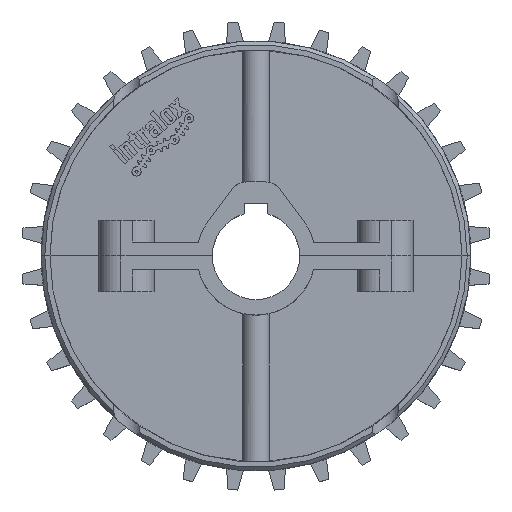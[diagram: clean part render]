
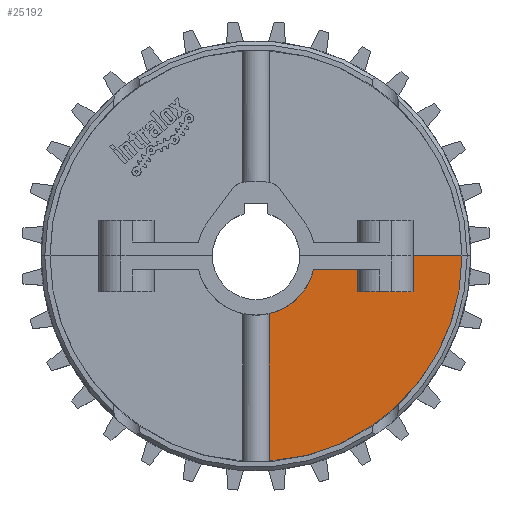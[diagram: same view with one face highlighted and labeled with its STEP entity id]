
A CAD part, top view. The second image highlights one B-rep face of the part: STEP entity #25192.
In plain terms, the highlighted planar face has unit normal (0, 0, 1).
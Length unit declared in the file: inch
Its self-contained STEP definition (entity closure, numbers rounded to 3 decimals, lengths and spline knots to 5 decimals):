
#14157=DIRECTION('',(0.,-1.,0.));
#14158=VECTOR('',#14157,0.4825);
#14159=CARTESIAN_POINT('',(2.125,0.,0.06));
#14160=LINE('',#14159,#14158);
#17258=CARTESIAN_POINT('',(0.17764,-2.77881,0.06));
#17260=CARTESIAN_POINT('',(0.,0.,0.06));
#17261=DIRECTION('',(0.,0.,1.));
#17262=DIRECTION('',(0.064,-0.998,0.));
#17263=AXIS2_PLACEMENT_3D('',#17260,#17261,#17262);
#17517=DIRECTION('',(1.,0.,0.));
#17518=VECTOR('',#17517,0.65949);
#17519=CARTESIAN_POINT('',(2.125,0.,0.06));
#17520=LINE('',#17519,#17518);
#17521=DIRECTION('',(0.,1.,0.));
#17522=VECTOR('',#17521,1.99879);
#17523=CARTESIAN_POINT('',(0.17764,-2.77881,0.06));
#17524=LINE('',#17523,#17522);
#17525=CARTESIAN_POINT('',(0.,0.,0.06));
#17526=DIRECTION('',(0.,0.,1.));
#17527=DIRECTION('',(0.222,-0.975,0.));
#17528=AXIS2_PLACEMENT_3D('',#17525,#17526,#17527);
#17530=DIRECTION('',(1.,0.,0.));
#17531=VECTOR('',#17530,0.59728);
#17532=CARTESIAN_POINT('',(0.77772,-0.1875,0.06));
#17533=LINE('',#17532,#17531);
#17534=DIRECTION('',(0.,-1.,0.));
#17535=VECTOR('',#17534,0.295);
#17536=CARTESIAN_POINT('',(1.375,-0.1875,0.06));
#17537=LINE('',#17536,#17535);
#17538=DIRECTION('',(1.,0.,0.));
#17539=VECTOR('',#17538,0.75);
#17540=CARTESIAN_POINT('',(1.375,-0.4825,0.06));
#17541=LINE('',#17540,#17539);
#17930=CARTESIAN_POINT('',(0.17764,-0.78003,0.06));
#17931=CARTESIAN_POINT('',(0.77772,-0.1875,0.06));
#17932=VERTEX_POINT('',#17930);
#17933=VERTEX_POINT('',#17931);
#17956=CARTESIAN_POINT('',(1.375,-0.1875,0.06));
#17957=CARTESIAN_POINT('',(1.375,-0.4825,0.06));
#17958=VERTEX_POINT('',#17956);
#17959=VERTEX_POINT('',#17957);
#17960=CARTESIAN_POINT('',(2.125,-0.4825,0.06));
#17961=VERTEX_POINT('',#17960);
#18020=CARTESIAN_POINT('',(2.125,0.,0.06));
#18021=CARTESIAN_POINT('',(2.78449,0.,0.06));
#18022=VERTEX_POINT('',#18020);
#18023=VERTEX_POINT('',#18021);
#18041=VERTEX_POINT('',#17258);
#25176=CARTESIAN_POINT('',(0.,0.,0.06));
#25177=DIRECTION('',(0.,0.,1.));
#25178=DIRECTION('',(1.,0.,0.));
#25179=AXIS2_PLACEMENT_3D('',#25176,#25177,#25178);
#25180=PLANE('',#25179);
#25181=ORIENTED_EDGE('',*,*,#20722,.T.);
#25182=ORIENTED_EDGE('',*,*,#24851,.F.);
#25184=ORIENTED_EDGE('',*,*,#25183,.T.);
#25185=ORIENTED_EDGE('',*,*,#24898,.T.);
#25186=ORIENTED_EDGE('',*,*,#24964,.T.);
#25187=ORIENTED_EDGE('',*,*,#25139,.T.);
#25188=ORIENTED_EDGE('',*,*,#20805,.T.);
#25189=ORIENTED_EDGE('',*,*,#20854,.F.);
#25190=EDGE_LOOP('',(#25181,#25182,#25184,#25185,#25186,#25187,#25188,#25189));
#25191=FACE_OUTER_BOUND('',#25190,.F.);
#25192=ADVANCED_FACE('',(#25191),#25180,.T.);
#17264=CIRCLE('',#17263,2.78449);
#17529=CIRCLE('',#17528,0.8);
#20722=EDGE_CURVE('',#18022,#18023,#17520,.T.);
#20805=EDGE_CURVE('',#17959,#17961,#17541,.T.);
#20854=EDGE_CURVE('',#18022,#17961,#14160,.T.);
#24851=EDGE_CURVE('',#18041,#18023,#17264,.T.);
#24898=EDGE_CURVE('',#17932,#17933,#17529,.T.);
#24964=EDGE_CURVE('',#17933,#17958,#17533,.T.);
#25139=EDGE_CURVE('',#17958,#17959,#17537,.T.);
#25183=EDGE_CURVE('',#18041,#17932,#17524,.T.);
